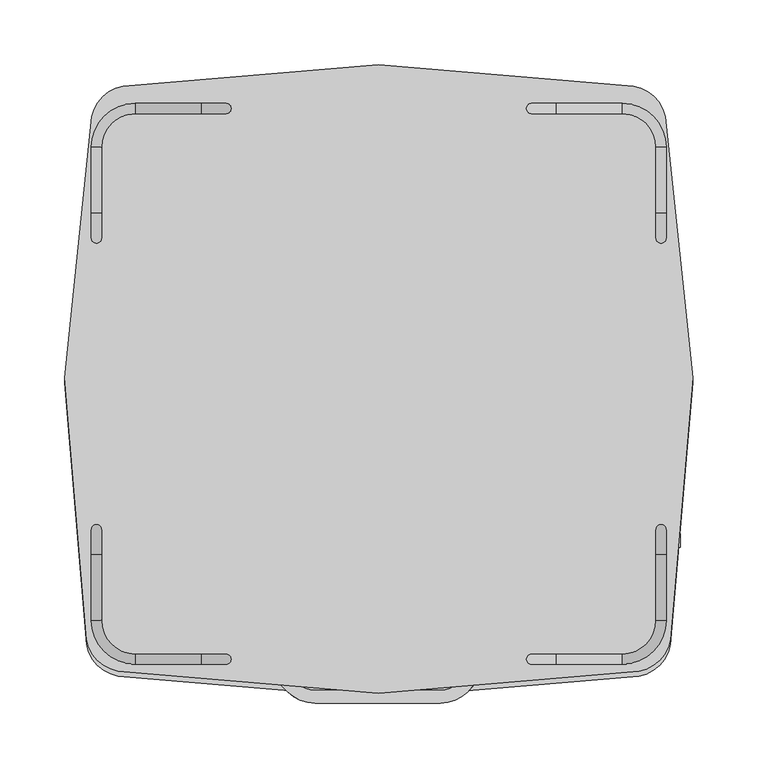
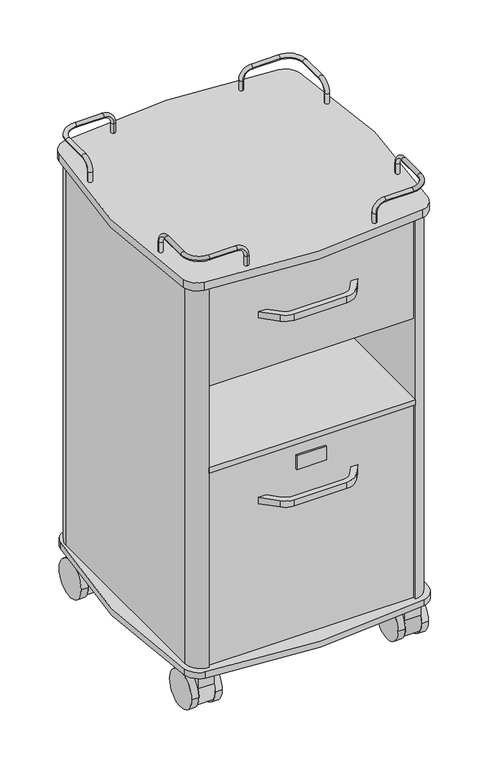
"""IFC4 building model written with IfcOpenShell, lengths in millimetres: proxy geometry, Medical_All_ARJO_Bedside-Cabinet : Medical_All_ARJO_Bedside-Cabinet."""

from ifc_helpers import new_model, si_unit, point, frame, frame_2d, origin, place, context, project, spatial, polyline, circle_curve, ellipse_curve, trimmed, segment, composite_curve, outline, extrude, source, transform, mapped, element, save
from ifc_brep_helpers import plane_surface, cylinder_surface, revolved_surface, advanced_brep


def generic_models_6c1ef8ac(model_context):
    return source(origin(), model_context, "Body", "SolidModel", [
        extrude(outline(polyline([(27.7927633, -215.9008386), (-27.2072367, -215.9008386), (-27.2072367, -212.5), (27.7927633, -212.5), (27.7927633, -215.9008386)])), frame((0.0, 0.0, 418.3032926), z_axis=(0.0, 0.0, 1.0), x_axis=(1.0, 0.0, 0.0)), (0.0, 0.0, 1.0), 27.0),
        advanced_brep(
        [(-214.0838168, 112.5, 847.394198), (-221.9161832, 112.5, 847.394198), (-214.0838168, 112.5, 866.394198), (-221.9161832, 112.5, 866.394198), (-221.9161832, 131.5, 885.394198), (-214.0838168, 131.5, 885.394198), (-214.0838168, 182.5, 885.394198), (-221.9161832, 182.5, 885.394198), (-188.0, 216.4161832, 885.394198), (-188.0, 208.5838168, 885.394198), (-137.0, 208.5838168, 885.394198), (-137.0, 216.4161832, 885.394198), (-118.0, 216.4161832, 866.394198), (-118.0, 208.5838168, 866.394198), (-118.0, 208.5838168, 847.394198), (-118.0, 216.4161832, 847.394198)],
        [
            (0, 1, circle_curve(frame((-218.0, 112.5, 847.394198), z_axis=(0.0, 0.0, -1.0), x_axis=(-1.0, 0.0, 0.0)), 3.9161832)),
            (1, 0, circle_curve(frame((-218.0, 112.5, 847.394198), z_axis=(0.0, 0.0, -1.0), x_axis=(-1.0, 0.0, 0.0)), 3.9161832)),
            (0, 2),
            (2, 3, circle_curve(frame((-218.0, 112.5, 866.394198), z_axis=(0.0, 0.0, -1.0), x_axis=(-1.0, 0.0, 0.0)), 3.9161832)),
            (3, 1),
            (3, 2, circle_curve(frame((-218.0, 112.5, 866.394198), z_axis=(0.0, 0.0, -1.0), x_axis=(-1.0, 0.0, 0.0)), 3.9161832)),
            (4, 3, circle_curve(frame((-221.9161832, 131.5, 866.394198), z_axis=(1.0, 0.0, 0.0), x_axis=(0.0, -1.0, 0.0)), 19.0)),
            (2, 5, circle_curve(frame((-214.0838168, 131.5, 866.394198), z_axis=(-1.0, 0.0, 0.0), x_axis=(0.0, -1.0, 0.0)), 19.0)),
            (5, 4, circle_curve(frame((-218.0, 131.5, 885.394198), z_axis=(0.0, -1.0, 0.0), x_axis=(-1.0, 0.0, 0.0)), 3.9161832)),
            (4, 5, circle_curve(frame((-218.0, 131.5, 885.394198), z_axis=(0.0, -1.0, 0.0), x_axis=(-1.0, 0.0, 0.0)), 3.9161832)),
            (5, 6),
            (6, 7, circle_curve(frame((-218.0, 182.5, 885.394198), z_axis=(0.0, -1.0, 0.0), x_axis=(-1.0, 0.0, 0.0)), 3.9161832)),
            (7, 4),
            (7, 6, circle_curve(frame((-218.0, 182.5, 885.394198), z_axis=(0.0, -1.0, 0.0), x_axis=(-1.0, 0.0, 0.0)), 3.9161832)),
            (8, 7, circle_curve(frame((-188.0, 182.5, 885.394198), z_axis=(0.0, 0.0, 1.0), x_axis=(-1.0, 0.0, 0.0)), 33.9161832)),
            (6, 9, circle_curve(frame((-188.0, 182.5, 885.394198), z_axis=(0.0, 0.0, -1.0), x_axis=(-1.0, 0.0, 0.0)), 26.0838168)),
            (9, 8, circle_curve(frame((-188.0, 212.5, 885.394198), z_axis=(-1.0, 0.0, 0.0), x_axis=(0.0, 1.0, 0.0)), 3.9161832)),
            (8, 9, circle_curve(frame((-188.0, 212.5, 885.394198), z_axis=(-1.0, 0.0, 0.0), x_axis=(0.0, 1.0, 0.0)), 3.9161832)),
            (9, 10),
            (10, 11, circle_curve(frame((-137.0, 212.5, 885.394198), z_axis=(-1.0, 0.0, 0.0), x_axis=(0.0, 1.0, 0.0)), 3.9161832)),
            (11, 8),
            (11, 10, circle_curve(frame((-137.0, 212.5, 885.394198), z_axis=(-1.0, 0.0, 0.0), x_axis=(0.0, 1.0, 0.0)), 3.9161832)),
            (12, 11, circle_curve(frame((-137.0, 216.4161832, 866.394198), z_axis=(0.0, -1.0, 0.0), x_axis=(0.0, 0.0, 1.0)), 19.0)),
            (10, 13, circle_curve(frame((-137.0, 208.5838168, 866.394198), z_axis=(0.0, 1.0, 0.0), x_axis=(0.0, 0.0, 1.0)), 19.0)),
            (13, 12, circle_curve(frame((-118.0, 212.5, 866.394198), z_axis=(0.0, 0.0, 1.0), x_axis=(0.0, 1.0, 0.0)), 3.9161832)),
            (12, 13, circle_curve(frame((-118.0, 212.5, 866.394198), z_axis=(0.0, 0.0, 1.0), x_axis=(0.0, 1.0, 0.0)), 3.9161832)),
            (14, 15, circle_curve(frame((-118.0, 212.5, 847.394198), z_axis=(0.0, 0.0, -1.0), x_axis=(0.0, 1.0, 0.0)), 3.9161832)),
            (15, 14, circle_curve(frame((-118.0, 212.5, 847.394198), z_axis=(0.0, 0.0, -1.0), x_axis=(0.0, 1.0, 0.0)), 3.9161832)),
            (13, 14),
            (15, 12),
        ],
        [
            plane_surface(frame((-218.0, 108.5838168, 847.394198), z_axis=(0.0, 0.0, -1.0), x_axis=(1.0, 0.0, 0.0))),
            cylinder_surface(frame((-218.0, 112.5, 847.394198), z_axis=(0.0, 0.0, -1.0), x_axis=(-1.0, 0.0, 0.0)), 3.9161832),
            revolved_surface(trimmed(ellipse_curve(frame((-218.0, 112.5, 866.394198), z_axis=(0.0, 0.0, -1.0), x_axis=(-1.0, 0.0, 0.0)), 3.9161832, 3.9161832), [point((-214.0838168, 112.5, 866.394198))], [point((-221.9161832, 112.5, 866.394198))], True, "CARTESIAN"), (-218.0, 131.5, 866.394198), (-1.0, 0.0, 0.0)),
            revolved_surface(trimmed(ellipse_curve(frame((-218.0, 112.5, 866.394198), z_axis=(0.0, 0.0, -1.0), x_axis=(-1.0, 0.0, 0.0)), 3.9161832, 3.9161832), [point((-221.9161832, 112.5, 866.394198))], [point((-214.0838168, 112.5, 866.394198))], True, "CARTESIAN"), (-218.0, 131.5, 866.394198), (-1.0, 0.0, 0.0)),
            cylinder_surface(frame((-218.0, 131.5, 885.394198), z_axis=(0.0, -1.0, 0.0), x_axis=(-1.0, 0.0, 0.0)), 3.9161832),
            revolved_surface(trimmed(ellipse_curve(frame((-218.0, 182.5, 885.394198), z_axis=(0.0, -1.0, 0.0), x_axis=(-1.0, 0.0, 0.0)), 3.9161832, 3.9161832), [point((-214.0838168, 182.5, 885.394198))], [point((-221.9161832, 182.5, 885.394198))], True, "CARTESIAN"), (-188.0, 182.5, 885.394198), (0.0, 0.0, -1.0)),
            revolved_surface(trimmed(ellipse_curve(frame((-218.0, 182.5, 885.394198), z_axis=(0.0, -1.0, 0.0), x_axis=(-1.0, 0.0, 0.0)), 3.9161832, 3.9161832), [point((-221.9161832, 182.5, 885.394198))], [point((-214.0838168, 182.5, 885.394198))], True, "CARTESIAN"), (-188.0, 182.5, 885.394198), (0.0, 0.0, -1.0)),
            cylinder_surface(frame((-188.0, 212.5, 885.394198), z_axis=(-1.0, 0.0, 0.0), x_axis=(0.0, 1.0, 0.0)), 3.9161832),
            revolved_surface(trimmed(ellipse_curve(frame((-137.0, 212.5, 885.394198), z_axis=(-1.0, 0.0, 0.0), x_axis=(0.0, 1.0, 0.0)), 3.9161832, 3.9161832), [point((-137.0, 208.5838168, 885.394198))], [point((-137.0, 216.4161832, 885.394198))], True, "CARTESIAN"), (-137.0, 212.5, 866.394198), (0.0, 1.0, 0.0)),
            revolved_surface(trimmed(ellipse_curve(frame((-137.0, 212.5, 885.394198), z_axis=(-1.0, 0.0, 0.0), x_axis=(0.0, 1.0, 0.0)), 3.9161832, 3.9161832), [point((-137.0, 216.4161832, 885.394198))], [point((-137.0, 208.5838168, 885.394198))], True, "CARTESIAN"), (-137.0, 212.5, 866.394198), (0.0, 1.0, 0.0)),
            plane_surface(frame((-118.0, 208.5838168, 847.394198), z_axis=(0.0, 0.0, -1.0), x_axis=(-1.0, 0.0, 0.0))),
            cylinder_surface(frame((-118.0, 212.5, 866.394198), z_axis=(0.0, 0.0, 1.0), x_axis=(0.0, 1.0, 0.0)), 3.9161832),
        ],
        [
            (0, [[1, 2]]),
            (1, [[-1, 3, 4, 5]]),
            (1, [[-2, -5, 6, -3]]),
            (2, [[7, -4, 8, 9]]),
            (3, [[-8, -6, -7, 10]]),
            (4, [[-9, 11, 12, 13]]),
            (4, [[-10, -13, 14, -11]]),
            (5, [[15, -12, 16, 17]]),
            (6, [[-16, -14, -15, 18]]),
            (7, [[-17, 19, 20, 21]]),
            (7, [[-18, -21, 22, -19]]),
            (8, [[23, -20, 24, 25]]),
            (9, [[-24, -22, -23, 26]]),
            (10, [[27, 28]]),
            (11, [[-25, 29, -28, 30]]),
            (11, [[-26, -30, -27, -29]]),
        ],
    ),
        advanced_brep(
        [(214.0838168, 112.5, 847.394198), (221.9161832, 112.5, 847.394198), (221.9161832, 112.5, 866.394198), (214.0838168, 112.5, 866.394198), (214.0838168, 131.5, 885.394198), (221.9161832, 131.5, 885.394198), (221.9161832, 182.5, 885.394198), (214.0838168, 182.5, 885.394198), (188.0, 208.5838168, 885.394198), (188.0, 216.4161832, 885.394198), (137.0, 216.4161832, 885.394198), (137.0, 208.5838168, 885.394198), (118.0, 208.5838168, 866.394198), (118.0, 216.4161832, 866.394198), (118.0, 208.5838168, 847.394198), (118.0, 216.4161832, 847.394198)],
        [
            (0, 1, circle_curve(frame((218.0, 112.5, 847.394198), z_axis=(0.0, 0.0, -1.0), x_axis=(1.0, 0.0, 0.0)), 3.9161832)),
            (1, 0, circle_curve(frame((218.0, 112.5, 847.394198), z_axis=(0.0, 0.0, -1.0), x_axis=(1.0, 0.0, 0.0)), 3.9161832)),
            (1, 2),
            (2, 3, circle_curve(frame((218.0, 112.5, 866.394198), z_axis=(0.0, 0.0, -1.0), x_axis=(1.0, 0.0, 0.0)), 3.9161832)),
            (3, 0),
            (3, 2, circle_curve(frame((218.0, 112.5, 866.394198), z_axis=(0.0, 0.0, -1.0), x_axis=(1.0, 0.0, 0.0)), 3.9161832)),
            (4, 3, circle_curve(frame((214.0838168, 131.5, 866.394198), z_axis=(1.0, 0.0, 0.0), x_axis=(0.0, -1.0, 0.0)), 19.0)),
            (2, 5, circle_curve(frame((221.9161832, 131.5, 866.394198), z_axis=(-1.0, 0.0, 0.0), x_axis=(0.0, -1.0, 0.0)), 19.0)),
            (5, 4, circle_curve(frame((218.0, 131.5, 885.394198), z_axis=(0.0, -1.0, 0.0), x_axis=(1.0, 0.0, 0.0)), 3.9161832)),
            (4, 5, circle_curve(frame((218.0, 131.5, 885.394198), z_axis=(0.0, -1.0, 0.0), x_axis=(1.0, 0.0, 0.0)), 3.9161832)),
            (5, 6),
            (6, 7, circle_curve(frame((218.0, 182.5, 885.394198), z_axis=(0.0, -1.0, 0.0), x_axis=(1.0, 0.0, 0.0)), 3.9161832)),
            (7, 4),
            (7, 6, circle_curve(frame((218.0, 182.5, 885.394198), z_axis=(0.0, -1.0, 0.0), x_axis=(1.0, 0.0, 0.0)), 3.9161832)),
            (8, 7, circle_curve(frame((188.0, 182.5, 885.394198), z_axis=(0.0, 0.0, -1.0), x_axis=(1.0, 0.0, 0.0)), 26.0838168)),
            (6, 9, circle_curve(frame((188.0, 182.5, 885.394198), z_axis=(0.0, 0.0, 1.0), x_axis=(1.0, 0.0, 0.0)), 33.9161832)),
            (9, 8, circle_curve(frame((188.0, 212.5, 885.394198), z_axis=(1.0, 0.0, 0.0), x_axis=(0.0, 1.0, 0.0)), 3.9161832)),
            (8, 9, circle_curve(frame((188.0, 212.5, 885.394198), z_axis=(1.0, 0.0, 0.0), x_axis=(0.0, 1.0, 0.0)), 3.9161832)),
            (9, 10),
            (10, 11, circle_curve(frame((137.0, 212.5, 885.394198), z_axis=(1.0, 0.0, 0.0), x_axis=(0.0, 1.0, 0.0)), 3.9161832)),
            (11, 8),
            (11, 10, circle_curve(frame((137.0, 212.5, 885.394198), z_axis=(1.0, 0.0, 0.0), x_axis=(0.0, 1.0, 0.0)), 3.9161832)),
            (12, 11, circle_curve(frame((137.0, 208.5838168, 866.394198), z_axis=(0.0, 1.0, 0.0), x_axis=(0.0, 0.0, 1.0)), 19.0)),
            (10, 13, circle_curve(frame((137.0, 216.4161832, 866.394198), z_axis=(0.0, -1.0, 0.0), x_axis=(0.0, 0.0, 1.0)), 19.0)),
            (13, 12, circle_curve(frame((118.0, 212.5, 866.394198), z_axis=(0.0, 0.0, 1.0), x_axis=(0.0, 1.0, 0.0)), 3.9161832)),
            (12, 13, circle_curve(frame((118.0, 212.5, 866.394198), z_axis=(0.0, 0.0, 1.0), x_axis=(0.0, 1.0, 0.0)), 3.9161832)),
            (14, 15, circle_curve(frame((118.0, 212.5, 847.394198), z_axis=(0.0, 0.0, -1.0), x_axis=(0.0, 1.0, 0.0)), 3.9161832)),
            (15, 14, circle_curve(frame((118.0, 212.5, 847.394198), z_axis=(0.0, 0.0, -1.0), x_axis=(0.0, 1.0, 0.0)), 3.9161832)),
            (13, 15),
            (14, 12),
        ],
        [
            plane_surface(frame((218.0, 108.5838168, 847.394198), z_axis=(0.0, 0.0, -1.0), x_axis=(1.0, 0.0, 0.0))),
            cylinder_surface(frame((218.0, 112.5, 847.394198), z_axis=(0.0, 0.0, -1.0), x_axis=(1.0, 0.0, 0.0)), 3.9161832),
            revolved_surface(trimmed(ellipse_curve(frame((218.0, 112.5, 866.394198), z_axis=(0.0, 0.0, -1.0), x_axis=(1.0, 0.0, 0.0)), 3.9161832, 3.9161832), [point((221.9161832, 112.5, 866.394198))], [point((214.0838168, 112.5, 866.394198))], True, "CARTESIAN"), (218.0, 131.5, 866.394198), (-1.0, 0.0, 0.0)),
            revolved_surface(trimmed(ellipse_curve(frame((218.0, 112.5, 866.394198), z_axis=(0.0, 0.0, -1.0), x_axis=(1.0, 0.0, 0.0)), 3.9161832, 3.9161832), [point((214.0838168, 112.5, 866.394198))], [point((221.9161832, 112.5, 866.394198))], True, "CARTESIAN"), (218.0, 131.5, 866.394198), (-1.0, 0.0, 0.0)),
            cylinder_surface(frame((218.0, 131.5, 885.394198), z_axis=(0.0, -1.0, 0.0), x_axis=(1.0, 0.0, 0.0)), 3.9161832),
            revolved_surface(trimmed(ellipse_curve(frame((218.0, 182.5, 885.394198), z_axis=(0.0, -1.0, 0.0), x_axis=(1.0, 0.0, 0.0)), 3.9161832, 3.9161832), [point((221.9161832, 182.5, 885.394198))], [point((214.0838168, 182.5, 885.394198))], True, "CARTESIAN"), (188.0, 182.5, 885.394198), (0.0, 0.0, 1.0)),
            revolved_surface(trimmed(ellipse_curve(frame((218.0, 182.5, 885.394198), z_axis=(0.0, -1.0, 0.0), x_axis=(1.0, 0.0, 0.0)), 3.9161832, 3.9161832), [point((214.0838168, 182.5, 885.394198))], [point((221.9161832, 182.5, 885.394198))], True, "CARTESIAN"), (188.0, 182.5, 885.394198), (0.0, 0.0, 1.0)),
            cylinder_surface(frame((188.0, 212.5, 885.394198), z_axis=(1.0, 0.0, 0.0), x_axis=(0.0, 1.0, 0.0)), 3.9161832),
            revolved_surface(trimmed(ellipse_curve(frame((137.0, 212.5, 885.394198), z_axis=(1.0, 0.0, 0.0), x_axis=(0.0, 1.0, 0.0)), 3.9161832, 3.9161832), [point((137.0, 216.4161832, 885.394198))], [point((137.0, 208.5838168, 885.394198))], True, "CARTESIAN"), (137.0, 212.5, 866.394198), (0.0, -1.0, 0.0)),
            revolved_surface(trimmed(ellipse_curve(frame((137.0, 212.5, 885.394198), z_axis=(1.0, 0.0, 0.0), x_axis=(0.0, 1.0, 0.0)), 3.9161832, 3.9161832), [point((137.0, 208.5838168, 885.394198))], [point((137.0, 216.4161832, 885.394198))], True, "CARTESIAN"), (137.0, 212.5, 866.394198), (0.0, -1.0, 0.0)),
            plane_surface(frame((118.0, 208.5838168, 847.394198), z_axis=(0.0, 0.0, -1.0), x_axis=(-1.0, 0.0, 0.0))),
            cylinder_surface(frame((118.0, 212.5, 866.394198), z_axis=(0.0, 0.0, 1.0), x_axis=(0.0, 1.0, 0.0)), 3.9161832),
        ],
        [
            (0, [[1, 2]]),
            (1, [[-2, 3, 4, 5]]),
            (1, [[-1, -5, 6, -3]]),
            (2, [[7, -4, 8, 9]]),
            (3, [[-8, -6, -7, 10]]),
            (4, [[-9, 11, 12, 13]]),
            (4, [[-10, -13, 14, -11]]),
            (5, [[15, -12, 16, 17]]),
            (6, [[-16, -14, -15, 18]]),
            (7, [[-17, 19, 20, 21]]),
            (7, [[-18, -21, 22, -19]]),
            (8, [[23, -20, 24, 25]]),
            (9, [[-24, -22, -23, 26]]),
            (10, [[27, 28]]),
            (11, [[-25, 29, -27, 30]]),
            (11, [[-26, -30, -28, -29]]),
        ],
    ),
        advanced_brep(
        [(-214.0838168, -112.5, 847.394198), (-221.9161832, -112.5, 847.394198), (-221.9161832, -112.5, 866.394198), (-214.0838168, -112.5, 866.394198), (-214.0838168, -131.5, 885.394198), (-221.9161832, -131.5, 885.394198), (-221.9161832, -182.5, 885.394198), (-214.0838168, -182.5, 885.394198), (-188.0, -208.5838168, 885.394198), (-188.0, -216.4161832, 885.394198), (-137.0, -216.4161832, 885.394198), (-137.0, -208.5838168, 885.394198), (-118.0, -208.5838168, 866.394198), (-118.0, -216.4161832, 866.394198), (-118.0, -208.5838168, 847.394198), (-118.0, -216.4161832, 847.394198)],
        [
            (0, 1, circle_curve(frame((-218.0, -112.5, 847.394198), z_axis=(0.0, 0.0, -1.0), x_axis=(-1.0, 0.0, 0.0)), 3.9161832)),
            (1, 0, circle_curve(frame((-218.0, -112.5, 847.394198), z_axis=(0.0, 0.0, -1.0), x_axis=(-1.0, 0.0, 0.0)), 3.9161832)),
            (1, 2),
            (2, 3, circle_curve(frame((-218.0, -112.5, 866.394198), z_axis=(0.0, 0.0, -1.0), x_axis=(-1.0, 0.0, 0.0)), 3.9161832)),
            (3, 0),
            (3, 2, circle_curve(frame((-218.0, -112.5, 866.394198), z_axis=(0.0, 0.0, -1.0), x_axis=(-1.0, 0.0, 0.0)), 3.9161832)),
            (4, 3, circle_curve(frame((-214.0838168, -131.5, 866.394198), z_axis=(-1.0, 0.0, 0.0), x_axis=(0.0, 1.0, 0.0)), 19.0)),
            (2, 5, circle_curve(frame((-221.9161832, -131.5, 866.394198), z_axis=(1.0, 0.0, 0.0), x_axis=(0.0, 1.0, 0.0)), 19.0)),
            (5, 4, circle_curve(frame((-218.0, -131.5, 885.394198), z_axis=(0.0, 1.0, 0.0), x_axis=(-1.0, 0.0, 0.0)), 3.9161832)),
            (4, 5, circle_curve(frame((-218.0, -131.5, 885.394198), z_axis=(0.0, 1.0, 0.0), x_axis=(-1.0, 0.0, 0.0)), 3.9161832)),
            (5, 6),
            (6, 7, circle_curve(frame((-218.0, -182.5, 885.394198), z_axis=(0.0, 1.0, 0.0), x_axis=(-1.0, 0.0, 0.0)), 3.9161832)),
            (7, 4),
            (7, 6, circle_curve(frame((-218.0, -182.5, 885.394198), z_axis=(0.0, 1.0, 0.0), x_axis=(-1.0, 0.0, 0.0)), 3.9161832)),
            (8, 7, circle_curve(frame((-188.0, -182.5, 885.394198), z_axis=(0.0, 0.0, -1.0), x_axis=(-1.0, 0.0, 0.0)), 26.0838168)),
            (6, 9, circle_curve(frame((-188.0, -182.5, 885.394198), z_axis=(0.0, 0.0, 1.0), x_axis=(-1.0, 0.0, 0.0)), 33.9161832)),
            (9, 8, circle_curve(frame((-188.0, -212.5, 885.394198), z_axis=(-1.0, 0.0, 0.0), x_axis=(0.0, -1.0, 0.0)), 3.9161832)),
            (8, 9, circle_curve(frame((-188.0, -212.5, 885.394198), z_axis=(-1.0, 0.0, 0.0), x_axis=(0.0, -1.0, 0.0)), 3.9161832)),
            (9, 10),
            (10, 11, circle_curve(frame((-137.0, -212.5, 885.394198), z_axis=(-1.0, 0.0, 0.0), x_axis=(0.0, -1.0, 0.0)), 3.9161832)),
            (11, 8),
            (11, 10, circle_curve(frame((-137.0, -212.5, 885.394198), z_axis=(-1.0, 0.0, 0.0), x_axis=(0.0, -1.0, 0.0)), 3.9161832)),
            (12, 11, circle_curve(frame((-137.0, -208.5838168, 866.394198), z_axis=(0.0, -1.0, 0.0), x_axis=(0.0, 0.0, 1.0)), 19.0)),
            (10, 13, circle_curve(frame((-137.0, -216.4161832, 866.394198), z_axis=(0.0, 1.0, 0.0), x_axis=(0.0, 0.0, 1.0)), 19.0)),
            (13, 12, circle_curve(frame((-118.0, -212.5, 866.394198), z_axis=(0.0, 0.0, 1.0), x_axis=(0.0, -1.0, 0.0)), 3.9161832)),
            (12, 13, circle_curve(frame((-118.0, -212.5, 866.394198), z_axis=(0.0, 0.0, 1.0), x_axis=(0.0, -1.0, 0.0)), 3.9161832)),
            (14, 15, circle_curve(frame((-118.0, -212.5, 847.394198), z_axis=(0.0, 0.0, -1.0), x_axis=(0.0, -1.0, 0.0)), 3.9161832)),
            (15, 14, circle_curve(frame((-118.0, -212.5, 847.394198), z_axis=(0.0, 0.0, -1.0), x_axis=(0.0, -1.0, 0.0)), 3.9161832)),
            (13, 15),
            (14, 12),
        ],
        [
            plane_surface(frame((-218.0, -116.4161832, 847.394198), z_axis=(0.0, 0.0, -1.0), x_axis=(1.0, 0.0, 0.0))),
            cylinder_surface(frame((-218.0, -112.5, 847.394198), z_axis=(0.0, 0.0, -1.0), x_axis=(-1.0, 0.0, 0.0)), 3.9161832),
            revolved_surface(trimmed(ellipse_curve(frame((-218.0, -112.5, 866.394198), z_axis=(0.0, 0.0, -1.0), x_axis=(-1.0, 0.0, 0.0)), 3.9161832, 3.9161832), [point((-221.9161832, -112.5, 866.394198))], [point((-214.0838168, -112.5, 866.394198))], True, "CARTESIAN"), (-218.0, -131.5, 866.394198), (1.0, 0.0, 0.0)),
            revolved_surface(trimmed(ellipse_curve(frame((-218.0, -112.5, 866.394198), z_axis=(0.0, 0.0, -1.0), x_axis=(-1.0, 0.0, 0.0)), 3.9161832, 3.9161832), [point((-214.0838168, -112.5, 866.394198))], [point((-221.9161832, -112.5, 866.394198))], True, "CARTESIAN"), (-218.0, -131.5, 866.394198), (1.0, 0.0, 0.0)),
            cylinder_surface(frame((-218.0, -131.5, 885.394198), z_axis=(0.0, 1.0, 0.0), x_axis=(-1.0, 0.0, 0.0)), 3.9161832),
            revolved_surface(trimmed(ellipse_curve(frame((-218.0, -182.5, 885.394198), z_axis=(0.0, 1.0, 0.0), x_axis=(-1.0, 0.0, 0.0)), 3.9161832, 3.9161832), [point((-221.9161832, -182.5, 885.394198))], [point((-214.0838168, -182.5, 885.394198))], True, "CARTESIAN"), (-188.0, -182.5, 885.394198), (0.0, 0.0, 1.0)),
            revolved_surface(trimmed(ellipse_curve(frame((-218.0, -182.5, 885.394198), z_axis=(0.0, 1.0, 0.0), x_axis=(-1.0, 0.0, 0.0)), 3.9161832, 3.9161832), [point((-214.0838168, -182.5, 885.394198))], [point((-221.9161832, -182.5, 885.394198))], True, "CARTESIAN"), (-188.0, -182.5, 885.394198), (0.0, 0.0, 1.0)),
            cylinder_surface(frame((-188.0, -212.5, 885.394198), z_axis=(-1.0, 0.0, 0.0), x_axis=(0.0, -1.0, 0.0)), 3.9161832),
            revolved_surface(trimmed(ellipse_curve(frame((-137.0, -212.5, 885.394198), z_axis=(-1.0, 0.0, 0.0), x_axis=(0.0, -1.0, 0.0)), 3.9161832, 3.9161832), [point((-137.0, -216.4161832, 885.394198))], [point((-137.0, -208.5838168, 885.394198))], True, "CARTESIAN"), (-137.0, -212.5, 866.394198), (0.0, 1.0, 0.0)),
            revolved_surface(trimmed(ellipse_curve(frame((-137.0, -212.5, 885.394198), z_axis=(-1.0, 0.0, 0.0), x_axis=(0.0, -1.0, 0.0)), 3.9161832, 3.9161832), [point((-137.0, -208.5838168, 885.394198))], [point((-137.0, -216.4161832, 885.394198))], True, "CARTESIAN"), (-137.0, -212.5, 866.394198), (0.0, 1.0, 0.0)),
            plane_surface(frame((-118.0, -216.4161832, 847.394198), z_axis=(0.0, 0.0, -1.0), x_axis=(-1.0, 0.0, 0.0))),
            cylinder_surface(frame((-118.0, -212.5, 866.394198), z_axis=(0.0, 0.0, 1.0), x_axis=(0.0, -1.0, 0.0)), 3.9161832),
        ],
        [
            (0, [[1, 2]]),
            (1, [[-2, 3, 4, 5]]),
            (1, [[-1, -5, 6, -3]]),
            (2, [[7, -4, 8, 9]]),
            (3, [[-8, -6, -7, 10]]),
            (4, [[-9, 11, 12, 13]]),
            (4, [[-10, -13, 14, -11]]),
            (5, [[15, -12, 16, 17]]),
            (6, [[-16, -14, -15, 18]]),
            (7, [[-17, 19, 20, 21]]),
            (7, [[-18, -21, 22, -19]]),
            (8, [[23, -20, 24, 25]]),
            (9, [[-24, -22, -23, 26]]),
            (10, [[27, 28]]),
            (11, [[-25, 29, -27, 30]]),
            (11, [[-26, -30, -28, -29]]),
        ],
    ),
        advanced_brep(
        [(214.0838168, -112.5, 847.394198), (221.9161832, -112.5, 847.394198), (214.0838168, -112.5, 866.394198), (221.9161832, -112.5, 866.394198), (221.9161832, -131.5, 885.394198), (214.0838168, -131.5, 885.394198), (214.0838168, -182.5, 885.394198), (221.9161832, -182.5, 885.394198), (188.0, -216.4161832, 885.394198), (188.0, -208.5838168, 885.394198), (137.0, -208.5838168, 885.394198), (137.0, -216.4161832, 885.394198), (118.0, -216.4161832, 866.394198), (118.0, -208.5838168, 866.394198), (118.0, -208.5838168, 847.394198), (118.0, -216.4161832, 847.394198)],
        [
            (0, 1, circle_curve(frame((218.0, -112.5, 847.394198), z_axis=(0.0, 0.0, -1.0), x_axis=(1.0, 0.0, 0.0)), 3.9161832)),
            (1, 0, circle_curve(frame((218.0, -112.5, 847.394198), z_axis=(0.0, 0.0, -1.0), x_axis=(1.0, 0.0, 0.0)), 3.9161832)),
            (0, 2),
            (2, 3, circle_curve(frame((218.0, -112.5, 866.394198), z_axis=(0.0, 0.0, -1.0), x_axis=(1.0, 0.0, 0.0)), 3.9161832)),
            (3, 1),
            (3, 2, circle_curve(frame((218.0, -112.5, 866.394198), z_axis=(0.0, 0.0, -1.0), x_axis=(1.0, 0.0, 0.0)), 3.9161832)),
            (4, 3, circle_curve(frame((221.9161832, -131.5, 866.394198), z_axis=(-1.0, 0.0, 0.0), x_axis=(0.0, 1.0, 0.0)), 19.0)),
            (2, 5, circle_curve(frame((214.0838168, -131.5, 866.394198), z_axis=(1.0, 0.0, 0.0), x_axis=(0.0, 1.0, 0.0)), 19.0)),
            (5, 4, circle_curve(frame((218.0, -131.5, 885.394198), z_axis=(0.0, 1.0, 0.0), x_axis=(1.0, 0.0, 0.0)), 3.9161832)),
            (4, 5, circle_curve(frame((218.0, -131.5, 885.394198), z_axis=(0.0, 1.0, 0.0), x_axis=(1.0, 0.0, 0.0)), 3.9161832)),
            (5, 6),
            (6, 7, circle_curve(frame((218.0, -182.5, 885.394198), z_axis=(0.0, 1.0, 0.0), x_axis=(1.0, 0.0, 0.0)), 3.9161832)),
            (7, 4),
            (7, 6, circle_curve(frame((218.0, -182.5, 885.394198), z_axis=(0.0, 1.0, 0.0), x_axis=(1.0, 0.0, 0.0)), 3.9161832)),
            (8, 7, circle_curve(frame((188.0, -182.5, 885.394198), z_axis=(0.0, 0.0, 1.0), x_axis=(1.0, 0.0, 0.0)), 33.9161832)),
            (6, 9, circle_curve(frame((188.0, -182.5, 885.394198), z_axis=(0.0, 0.0, -1.0), x_axis=(1.0, 0.0, 0.0)), 26.0838168)),
            (9, 8, circle_curve(frame((188.0, -212.5, 885.394198), z_axis=(1.0, 0.0, 0.0), x_axis=(0.0, -1.0, 0.0)), 3.9161832)),
            (8, 9, circle_curve(frame((188.0, -212.5, 885.394198), z_axis=(1.0, 0.0, 0.0), x_axis=(0.0, -1.0, 0.0)), 3.9161832)),
            (9, 10),
            (10, 11, circle_curve(frame((137.0, -212.5, 885.394198), z_axis=(1.0, 0.0, 0.0), x_axis=(0.0, -1.0, 0.0)), 3.9161832)),
            (11, 8),
            (11, 10, circle_curve(frame((137.0, -212.5, 885.394198), z_axis=(1.0, 0.0, 0.0), x_axis=(0.0, -1.0, 0.0)), 3.9161832)),
            (12, 11, circle_curve(frame((137.0, -216.4161832, 866.394198), z_axis=(0.0, 1.0, 0.0), x_axis=(0.0, 0.0, 1.0)), 19.0)),
            (10, 13, circle_curve(frame((137.0, -208.5838168, 866.394198), z_axis=(0.0, -1.0, 0.0), x_axis=(0.0, 0.0, 1.0)), 19.0)),
            (13, 12, circle_curve(frame((118.0, -212.5, 866.394198), z_axis=(0.0, 0.0, 1.0), x_axis=(0.0, -1.0, 0.0)), 3.9161832)),
            (12, 13, circle_curve(frame((118.0, -212.5, 866.394198), z_axis=(0.0, 0.0, 1.0), x_axis=(0.0, -1.0, 0.0)), 3.9161832)),
            (14, 15, circle_curve(frame((118.0, -212.5, 847.394198), z_axis=(0.0, 0.0, -1.0), x_axis=(0.0, -1.0, 0.0)), 3.9161832)),
            (15, 14, circle_curve(frame((118.0, -212.5, 847.394198), z_axis=(0.0, 0.0, -1.0), x_axis=(0.0, -1.0, 0.0)), 3.9161832)),
            (13, 14),
            (15, 12),
        ],
        [
            plane_surface(frame((218.0, -116.4161832, 847.394198), z_axis=(0.0, 0.0, -1.0), x_axis=(1.0, 0.0, 0.0))),
            cylinder_surface(frame((218.0, -112.5, 847.394198), z_axis=(0.0, 0.0, -1.0), x_axis=(1.0, 0.0, 0.0)), 3.9161832),
            revolved_surface(trimmed(ellipse_curve(frame((218.0, -112.5, 866.394198), z_axis=(0.0, 0.0, -1.0), x_axis=(1.0, 0.0, 0.0)), 3.9161832, 3.9161832), [point((214.0838168, -112.5, 866.394198))], [point((221.9161832, -112.5, 866.394198))], True, "CARTESIAN"), (218.0, -131.5, 866.394198), (1.0, 0.0, 0.0)),
            revolved_surface(trimmed(ellipse_curve(frame((218.0, -112.5, 866.394198), z_axis=(0.0, 0.0, -1.0), x_axis=(1.0, 0.0, 0.0)), 3.9161832, 3.9161832), [point((221.9161832, -112.5, 866.394198))], [point((214.0838168, -112.5, 866.394198))], True, "CARTESIAN"), (218.0, -131.5, 866.394198), (1.0, 0.0, 0.0)),
            cylinder_surface(frame((218.0, -131.5, 885.394198), z_axis=(0.0, 1.0, 0.0), x_axis=(1.0, 0.0, 0.0)), 3.9161832),
            revolved_surface(trimmed(ellipse_curve(frame((218.0, -182.5, 885.394198), z_axis=(0.0, 1.0, 0.0), x_axis=(1.0, 0.0, 0.0)), 3.9161832, 3.9161832), [point((214.0838168, -182.5, 885.394198))], [point((221.9161832, -182.5, 885.394198))], True, "CARTESIAN"), (188.0, -182.5, 885.394198), (0.0, 0.0, -1.0)),
            revolved_surface(trimmed(ellipse_curve(frame((218.0, -182.5, 885.394198), z_axis=(0.0, 1.0, 0.0), x_axis=(1.0, 0.0, 0.0)), 3.9161832, 3.9161832), [point((221.9161832, -182.5, 885.394198))], [point((214.0838168, -182.5, 885.394198))], True, "CARTESIAN"), (188.0, -182.5, 885.394198), (0.0, 0.0, -1.0)),
            cylinder_surface(frame((188.0, -212.5, 885.394198), z_axis=(1.0, 0.0, 0.0), x_axis=(0.0, -1.0, 0.0)), 3.9161832),
            revolved_surface(trimmed(ellipse_curve(frame((137.0, -212.5, 885.394198), z_axis=(1.0, 0.0, 0.0), x_axis=(0.0, -1.0, 0.0)), 3.9161832, 3.9161832), [point((137.0, -208.5838168, 885.394198))], [point((137.0, -216.4161832, 885.394198))], True, "CARTESIAN"), (137.0, -212.5, 866.394198), (0.0, -1.0, 0.0)),
            revolved_surface(trimmed(ellipse_curve(frame((137.0, -212.5, 885.394198), z_axis=(1.0, 0.0, 0.0), x_axis=(0.0, -1.0, 0.0)), 3.9161832, 3.9161832), [point((137.0, -216.4161832, 885.394198))], [point((137.0, -208.5838168, 885.394198))], True, "CARTESIAN"), (137.0, -212.5, 866.394198), (0.0, -1.0, 0.0)),
            plane_surface(frame((118.0, -216.4161832, 847.394198), z_axis=(0.0, 0.0, -1.0), x_axis=(-1.0, 0.0, 0.0))),
            cylinder_surface(frame((118.0, -212.5, 866.394198), z_axis=(0.0, 0.0, 1.0), x_axis=(0.0, -1.0, 0.0)), 3.9161832),
        ],
        [
            (0, [[1, 2]]),
            (1, [[-1, 3, 4, 5]]),
            (1, [[-2, -5, 6, -3]]),
            (2, [[7, -4, 8, 9]]),
            (3, [[-8, -6, -7, 10]]),
            (4, [[-9, 11, 12, 13]]),
            (4, [[-10, -13, 14, -11]]),
            (5, [[15, -12, 16, 17]]),
            (6, [[-16, -14, -15, 18]]),
            (7, [[-17, 19, 20, 21]]),
            (7, [[-18, -21, 22, -19]]),
            (8, [[23, -20, 24, 25]]),
            (9, [[-24, -22, -23, 26]]),
            (10, [[27, 28]]),
            (11, [[-25, 29, -28, 30]]),
            (11, [[-26, -30, -27, -29]]),
        ],
    ),
        extrude(outline(composite_curve([segment(polyline([(-70.5025253, -237.5098507), (-95.512376, -212.5), (-81.3702404, -212.5), (-63.4314575, -230.4387829)]), True, "CONTINUOUS"), segment(trimmed(circle_curve(frame_2d((-49.2893219, -216.2966472)), 20.0), [point((-63.4314575, -230.4387829))], [point((-49.2893219, -236.2966472))], True, "CARTESIAN"), True, "CONTINUOUS"), segment(polyline([(-49.2893219, -236.2966472), (47.6672597, -236.2966472)]), True, "CONTINUOUS"), segment(trimmed(circle_curve(frame_2d((47.6672597, -216.2966472)), 20.0), [point((47.6672597, -236.2966472))], [point((64.0503006, -227.768176))], True, "CARTESIAN"), True, "CONTINUOUS"), segment(polyline([(64.0503006, -227.768176), (74.7411925, -212.5), (86.9489384, -212.5), (72.2418211, -233.5039403)]), True, "CONTINUOUS"), segment(trimmed(circle_curve(frame_2d((47.6672597, -216.2966472)), 30.0), [point((72.2418211, -233.5039403))], [point((47.6672597, -246.2966472))], False, "CARTESIAN"), True, "CONTINUOUS"), segment(polyline([(47.6672597, -246.2966472), (-49.2893219, -246.2966472)]), True, "CONTINUOUS"), segment(trimmed(circle_curve(frame_2d((-49.2893219, -216.2966472)), 30.0), [point((-49.2893219, -246.2966472))], [point((-70.5025253, -237.5098507))], False, "CARTESIAN"), True, "CONTINUOUS")], self_intersect=False)), frame((0.0, 0.0, 374.5683981), z_axis=(0.0, 0.0, 1.0), x_axis=(1.0, 0.0, 0.0)), (0.0, 0.0, 1.0), 12.0),
        extrude(outline(composite_curve([segment(polyline([(-70.5025253, -237.5098507), (-95.512376, -212.5), (-81.3702404, -212.5), (-63.4314575, -230.4387829)]), True, "CONTINUOUS"), segment(trimmed(circle_curve(frame_2d((-49.2893219, -216.2966472)), 20.0), [point((-63.4314575, -230.4387829))], [point((-49.2893219, -236.2966472))], True, "CARTESIAN"), True, "CONTINUOUS"), segment(polyline([(-49.2893219, -236.2966472), (47.6672597, -236.2966472)]), True, "CONTINUOUS"), segment(trimmed(circle_curve(frame_2d((47.6672597, -216.2966472)), 20.0), [point((47.6672597, -236.2966472))], [point((64.0503006, -227.768176))], True, "CARTESIAN"), True, "CONTINUOUS"), segment(polyline([(64.0503006, -227.768176), (74.7411925, -212.5), (86.9489384, -212.5), (72.2418211, -233.5039403)]), True, "CONTINUOUS"), segment(trimmed(circle_curve(frame_2d((47.6672597, -216.2966472)), 30.0), [point((72.2418211, -233.5039403))], [point((47.6672597, -246.2966472))], False, "CARTESIAN"), True, "CONTINUOUS"), segment(polyline([(47.6672597, -246.2966472), (-49.2893219, -246.2966472)]), True, "CONTINUOUS"), segment(trimmed(circle_curve(frame_2d((-49.2893219, -216.2966472)), 30.0), [point((-49.2893219, -246.2966472))], [point((-70.5025253, -237.5098507))], False, "CARTESIAN"), True, "CONTINUOUS")], self_intersect=False)), frame((0.0, 0.0, 735.7739776), z_axis=(0.0, 0.0, 1.0), x_axis=(1.0, 0.0, 0.0)), (0.0, 0.0, 1.0), 12.0),
        extrude(outline(polyline([(-190.0, 185.0), (190.0, 185.0), (190.0, -218.012376), (-190.0, -218.012376), (-190.0, 185.0)])), frame((0.0, 0.0, 470.3095887), z_axis=(0.0, 0.0, 1.0), x_axis=(1.0, 0.0, 0.0)), (0.0, 0.0, 1.0), 10.0),
        extrude(outline(composite_curve([segment(trimmed(circle_curve(frame_2d((191.7493336, 200.2338668)), 30.0), [point((196.7142532, 229.820174))], [point((221.1390101, 206.2544078))], False, "CARTESIAN"), True, "CONTINUOUS"), segment(trimmed(circle_curve(frame_2d((-816.2738976, -6.2619456)), 1058.9564399), [point((221.1390101, 206.2544078))], [point((225.2620123, -197.5514903))], False, "CARTESIAN"), True, "CONTINUOUS"), segment(trimmed(circle_curve(frame_2d((195.755532, -192.1323001)), 30.0), [point((225.2620123, -197.5514903))], [point((200.8241832, -221.7010129))], False, "CARTESIAN"), True, "CONTINUOUS"), segment(trimmed(circle_curve(frame_2d((0.0, 949.8360279)), 1188.625), [point((200.8241832, -221.7010129))], [point((-201.2465994, -221.6285242))], False, "CARTESIAN"), True, "CONTINUOUS"), segment(trimmed(circle_curve(frame_2d((-196.1672867, -192.061641)), 30.0), [point((-201.2465994, -221.6285242))], [point((-225.7043182, -197.311762))], False, "CARTESIAN"), True, "CONTINUOUS"), segment(trimmed(circle_curve(frame_2d((848.7903821, -6.3234687)), 1091.3365151), [point((-225.7043182, -197.311762))], [point((-221.6961976, 205.9826117))], False, "CARTESIAN"), True, "CONTINUOUS"), segment(trimmed(circle_curve(frame_2d((-192.2693463, 200.1464811)), 30.0), [point((-221.6961976, 205.9826117))], [point((-197.2477305, 229.7305256))], False, "CARTESIAN"), True, "CONTINUOUS"), segment(trimmed(circle_curve(frame_2d((0.0, -942.4139721)), 1188.625), [point((-197.2477305, 229.7305256))], [point((196.7142532, 229.820174))], False, "CARTESIAN"), True, "CONTINUOUS")], self_intersect=False)), frame((0.0, 0.0, 832.0), z_axis=(0.0, 0.0, 1.0), x_axis=(1.0, 0.0, 0.0)), (0.0, 0.0, 1.0), 15.394198),
        extrude(outline(composite_curve([segment(trimmed(circle_curve(frame_2d((191.7493336, 196.5228389)), 30.0), [point((196.7142532, 226.1091461))], [point((221.1390101, 202.5433798))], False, "CARTESIAN"), True, "CONTINUOUS"), segment(trimmed(circle_curve(frame_2d((-816.2738976, -9.9729735)), 1058.9564399), [point((221.1390101, 202.5433798))], [point((225.2620123, -201.2625182))], False, "CARTESIAN"), True, "CONTINUOUS"), segment(trimmed(circle_curve(frame_2d((195.755532, -195.8433281)), 30.0), [point((225.2620123, -201.2625182))], [point((200.8241832, -225.4120408))], False, "CARTESIAN"), True, "CONTINUOUS"), segment(trimmed(circle_curve(frame_2d((0.0, 946.125)), 1188.625), [point((200.8241832, -225.4120408))], [point((-201.2465994, -225.3395521))], False, "CARTESIAN"), True, "CONTINUOUS"), segment(trimmed(circle_curve(frame_2d((-196.1672867, -195.7726689)), 30.0), [point((-201.2465994, -225.3395521))], [point((-225.7043182, -201.0227899))], False, "CARTESIAN"), True, "CONTINUOUS"), segment(trimmed(circle_curve(frame_2d((848.7903821, -10.0344967)), 1091.3365151), [point((-225.7043182, -201.0227899))], [point((-221.6961976, 202.2715837))], False, "CARTESIAN"), True, "CONTINUOUS"), segment(trimmed(circle_curve(frame_2d((-192.2693463, 196.4354531)), 30.0), [point((-221.6961976, 202.2715837))], [point((-197.2477305, 226.0194977))], False, "CARTESIAN"), True, "CONTINUOUS"), segment(trimmed(circle_curve(frame_2d((0.0, -946.125)), 1188.625), [point((-197.2477305, 226.0194977))], [point((196.7142532, 226.1091461))], False, "CARTESIAN"), True, "CONTINUOUS")], self_intersect=False)), frame((0.0, 0.0, 80.0), z_axis=(0.0, 0.0, 1.0), x_axis=(1.0, 0.0, 0.0)), (0.0, 0.0, 1.0), 12.0),
        advanced_brep(
        [(-218.0, 190.0, 832.0), (-218.0, -188.0791169, 832.0), (-190.0, -218.012376, 832.0), (-190.0, -212.5, 832.0), (190.0, -212.5, 832.0), (190.0, -218.012376, 832.0), (218.0, -188.0791169, 832.0), (218.0, 190.0, 832.0), (190.0, 219.9332591, 832.0), (190.0, 212.5, 832.0), (-190.0, 212.5, 832.0), (-190.0, 219.9332591, 832.0), (218.0, 190.0, 92.0), (218.0, -188.0791169, 92.0), (190.0, -218.012376, 92.0), (190.0, -212.5, 92.0), (-190.0, -212.5, 92.0), (-190.0, -218.012376, 92.0), (-218.0, -188.0791169, 92.0), (-218.0, 190.0, 92.0), (-190.0, 219.9332591, 92.0), (-190.0, 212.5, 92.0), (190.0, 212.5, 92.0), (190.0, 219.9332591, 92.0), (218.0, -115.7345635, 762.7739776), (218.0, -115.7345635, 737.3646228), (218.0, -126.1888736, 737.3646228), (218.0, -126.1888736, 762.7739776), (190.0, 185.0, 470.3095887), (190.0, 185.0, 635.3095887), (-190.0, 185.0, 635.3095887), (-190.0, 185.0, 470.3095887), (190.0, -212.5, 470.3095887), (190.0, -212.5, 635.3095887), (-190.0, -212.5, 635.3095887), (-190.0, -212.5, 470.3095887), (227.8660993, -115.7345635, 762.7739776), (227.8660993, -115.7345635, 792.7739776), (232.8660993, -115.7345635, 792.7739776), (232.8660993, -115.7345635, 747.7739776), (232.8660993, -126.1888736, 747.7739776), (232.8660993, -126.1888736, 792.7739776), (227.8660993, -126.1888736, 792.7739776), (227.8660993, -126.1888736, 762.7739776)],
        [
            (0, 1),
            (1, 2, circle_curve(frame((-188.0, -188.0791169, 832.0), z_axis=(0.0, 0.0, 1.0), x_axis=(1.0, 0.0, 0.0)), 30.0)),
            (2, 3),
            (3, 4),
            (4, 5),
            (5, 6, circle_curve(frame((188.0, -188.0791169, 832.0), z_axis=(0.0, 0.0, 1.0), x_axis=(1.0, 0.0, 0.0)), 30.0)),
            (6, 7),
            (7, 8, circle_curve(frame((188.0, 190.0, 832.0), z_axis=(0.0, 0.0, 1.0), x_axis=(1.0, 0.0, 0.0)), 30.0)),
            (8, 9),
            (9, 10),
            (10, 11),
            (11, 0, circle_curve(frame((-188.0, 190.0, 832.0), z_axis=(0.0, 0.0, 1.0), x_axis=(1.0, 0.0, 0.0)), 30.0)),
            (12, 13),
            (13, 14, circle_curve(frame((188.0, -188.0791169, 92.0), z_axis=(0.0, 0.0, -1.0), x_axis=(1.0, 0.0, 0.0)), 30.0)),
            (14, 15),
            (15, 16),
            (16, 17),
            (17, 18, circle_curve(frame((-188.0, -188.0791169, 92.0), z_axis=(0.0, 0.0, -1.0), x_axis=(1.0, 0.0, 0.0)), 30.0)),
            (18, 19),
            (19, 20, circle_curve(frame((-188.0, 190.0, 92.0), z_axis=(0.0, 0.0, -1.0), x_axis=(1.0, 0.0, 0.0)), 30.0)),
            (20, 21),
            (21, 22),
            (22, 23),
            (23, 12, circle_curve(frame((188.0, 190.0, 92.0), z_axis=(0.0, 0.0, -1.0), x_axis=(1.0, 0.0, 0.0)), 30.0)),
            (19, 0),
            (11, 20),
            (18, 1),
            (17, 2),
            (13, 6),
            (5, 14),
            (12, 7),
            (24, 25),
            (25, 26),
            (26, 27),
            (27, 24),
            (23, 8),
            (28, 29),
            (29, 30),
            (30, 31),
            (31, 28),
            (28, 32),
            (32, 15),
            (4, 33),
            (33, 29),
            (33, 34),
            (34, 30),
            (34, 3),
            (16, 35),
            (35, 31),
            (35, 32),
            (10, 21),
            (22, 9),
            (36, 37),
            (37, 38),
            (38, 39),
            (39, 25),
            (24, 36),
            (40, 41),
            (41, 42),
            (42, 43),
            (43, 27),
            (26, 40),
            (38, 41),
            (40, 39),
            (37, 42),
            (36, 43),
        ],
        [
            plane_surface(frame((-192.2644889, 220.0, 832.0), z_axis=(0.0, 0.0, 1.0), x_axis=(-1.0, 0.0, 0.0))),
            plane_surface(frame((-192.2644889, 220.0, 92.0), z_axis=(0.0, 0.0, -1.0), x_axis=(1.0, 0.0, 0.0))),
            cylinder_surface(frame((-188.0, 190.0, 92.0), z_axis=(0.0, 0.0, 1.0), x_axis=(1.0, 0.0, 0.0)), 30.0),
            plane_surface(frame((-218.0, 190.0, 832.0), z_axis=(-1.0, 0.0, 0.0), x_axis=(0.0, 0.0, -1.0))),
            cylinder_surface(frame((-188.0, -188.0791169, 92.0), z_axis=(0.0, 0.0, 1.0), x_axis=(1.0, 0.0, 0.0)), 30.0),
            cylinder_surface(frame((188.0, -188.0791169, 92.0), z_axis=(0.0, 0.0, 1.0), x_axis=(1.0, 0.0, 0.0)), 30.0),
            plane_surface(frame((218.0, -188.0791169, 832.0), z_axis=(1.0, 0.0, 0.0), x_axis=(0.0, 0.0, -1.0))),
            cylinder_surface(frame((188.0, 190.0, 92.0), z_axis=(0.0, 0.0, 1.0), x_axis=(1.0, 0.0, 0.0)), 30.0),
            plane_surface(frame((190.0, 185.0, 500.3095887), z_axis=(0.0, -1.0, 0.0), x_axis=(0.0, 0.0, -1.0))),
            plane_surface(frame((190.0, -250.0, 470.3095887), z_axis=(-1.0, 0.0, 0.0), x_axis=(0.0, 1.0, 0.0))),
            plane_surface(frame((190.0, -250.0, 635.3095887), z_axis=(0.0, 0.0, -1.0), x_axis=(0.0, 1.0, 0.0))),
            plane_surface(frame((-190.0, -250.0, 635.3095887), z_axis=(1.0, 0.0, 0.0), x_axis=(0.0, 1.0, 0.0))),
            plane_surface(frame((-190.0, -250.0, 470.3095887), z_axis=(0.0, 0.0, 1.0), x_axis=(0.0, 1.0, 0.0))),
            plane_surface(frame((190.0, -212.5, 92.0), z_axis=(0.0, -1.0, 0.0), x_axis=(-1.0, 0.0, 0.0))),
            plane_surface(frame((-190.0, 207.8226502, 832.0), z_axis=(1.0, 0.0, 0.0), x_axis=(0.0, 1.0, 0.0))),
            plane_surface(frame((190.0, 207.8226502, 832.0), z_axis=(-1.0, 0.0, 0.0), x_axis=(0.0, -1.0, 0.0))),
            plane_surface(frame((190.0, 212.5, 832.0), z_axis=(0.0, 1.0, 0.0), x_axis=(-1.0, 0.0, 0.0))),
            plane_surface(frame((208.188773, -115.7345635, 730.4947277), z_axis=(0.0, 1.0, 0.0), x_axis=(-0.8191520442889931, 0.0, -0.5735764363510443))),
            plane_surface(frame((208.188773, -126.1888736, 730.4947277), z_axis=(0.0, -1.0, 0.0), x_axis=(0.8191520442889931, 0.0, 0.5735764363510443))),
            plane_surface(frame((232.8660993, -115.7345635, 792.7739776), z_axis=(1.0, 0.0, 0.0), x_axis=(0.0, -1.0, 0.0))),
            plane_surface(frame((227.8660993, -115.7345635, 792.7739776), z_axis=(0.0, 0.0, 1.0), x_axis=(0.0, -1.0, 0.0))),
            plane_surface(frame((227.8660993, -115.7345635, 762.7739776), z_axis=(-1.0, 0.0, 0.0), x_axis=(0.0, -1.0, 0.0))),
            plane_surface(frame((215.7555903, -115.7345635, 762.7739776), z_axis=(0.0, 0.0, 1.0), x_axis=(0.0, -1.0, 0.0))),
            plane_surface(frame((232.8660993, -115.7345635, 747.7739776), z_axis=(0.5735764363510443, 0.0, -0.8191520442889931), x_axis=(0.0, -1.0, 0.0))),
        ],
        [
            (0, [[1, 2, 3, 4, 5, 6, 7, 8, 9, 10, 11, 12]]),
            (1, [[13, 14, 15, 16, 17, 18, 19, 20, 21, 22, 23, 24]]),
            (2, [[25, -12, 26, -20]]),
            (3, [[-1, -25, -19, 27]]),
            (4, [[-27, -18, 28, -2]]),
            (5, [[29, -6, 30, -14]]),
            (6, [[-7, -29, -13, 31], [32, 33, 34, 35]]),
            (7, [[-31, -24, 36, -8]]),
            (8, [[37, 38, 39, 40]]),
            (9, [[-37, 41, 42, -15, -30, -5, 43, 44]]),
            (10, [[-38, -44, 45, 46]]),
            (11, [[-39, -46, 47, -3, -28, -17, 48, 49]]),
            (12, [[-40, -49, 50, -41]]),
            (13, [[-42, -50, -48, -16]]),
            (13, [[-43, -4, -47, -45]]),
            (14, [[51, -21, -26, -11]]),
            (15, [[52, -9, -36, -23]]),
            (16, [[-51, -10, -52, -22]]),
            (17, [[53, 54, 55, 56, -32, 57]]),
            (18, [[58, 59, 60, 61, -34, 62]]),
            (19, [[-55, 63, -58, 64]]),
            (20, [[-54, 65, -59, -63]]),
            (21, [[-53, 66, -60, -65]]),
            (22, [[-66, -57, -35, -61]]),
            (23, [[-64, -62, -33, -56]]),
        ],
    ),
        extrude(outline(composite_curve([segment(trimmed(circle_curve(frame_2d((-176.2689049, 35.1055443)), 35.0), [point((-211.2689049, 35.1055443))], [point((-141.2689049, 35.1055443))], False, "CARTESIAN"), True, "CONTINUOUS"), segment(trimmed(circle_curve(frame_2d((-176.2689049, 35.1055443)), 35.0), [point((-141.2689049, 35.1055443))], [point((-211.2689049, 35.1055443))], False, "CARTESIAN"), True, "CONTINUOUS")], self_intersect=False)), frame((-218.0, 0.0, 0.0), z_axis=(1.0, 0.0, 0.0), x_axis=(0.0, 1.0, 0.0)), (0.0, 0.0, 1.0), 13.0),
        extrude(outline(composite_curve([segment(trimmed(circle_curve(frame_2d((-176.2689049, 35.1055443)), 35.0), [point((-211.2689049, 35.1055443))], [point((-141.2689049, 35.1055443))], False, "CARTESIAN"), True, "CONTINUOUS"), segment(trimmed(circle_curve(frame_2d((-176.2689049, 35.1055443)), 35.0), [point((-141.2689049, 35.1055443))], [point((-211.2689049, 35.1055443))], False, "CARTESIAN"), True, "CONTINUOUS")], self_intersect=False)), frame((-175.0, 0.0, 0.0), z_axis=(1.0, 0.0, 0.0), x_axis=(0.0, 1.0, 0.0)), (0.0, 0.0, 1.0), 13.0),
        extrude(outline(composite_curve([segment(polyline([(-208.7479139, 50.1347283), (-208.7479139, 80.0), (-185.0, 80.0), (-185.0, 68.9990241)]), True, "CONTINUOUS"), segment(trimmed(circle_curve(frame_2d((-176.2689049, 35.1055443)), 35.0), [point((-185.0, 68.9990241))], [point((-145.5506034, 18.3309815))], False, "CARTESIAN"), True, "CONTINUOUS"), segment(polyline([(-145.5506034, 18.3309815), (-206.9872063, 18.3309815)]), True, "CONTINUOUS"), segment(trimmed(circle_curve(frame_2d((-176.2689049, 35.9822083)), 35.4285175), [point((-206.9872063, 18.3309815))], [point((-208.7479139, 50.1347283))], False, "CARTESIAN"), True, "CONTINUOUS")], self_intersect=False)), frame((-205.0, 0.0, 0.0), z_axis=(1.0, 0.0, 0.0), x_axis=(0.0, 1.0, 0.0)), (0.0, 0.0, 1.0), 30.0),
        extrude(outline(composite_curve([segment(trimmed(circle_curve(frame_2d((-176.2689049, 35.1055443)), 35.0), [point((-211.2689049, 35.1055443))], [point((-141.2689049, 35.1055443))], False, "CARTESIAN"), True, "CONTINUOUS"), segment(trimmed(circle_curve(frame_2d((-176.2689049, 35.1055443)), 35.0), [point((-141.2689049, 35.1055443))], [point((-211.2689049, 35.1055443))], False, "CARTESIAN"), True, "CONTINUOUS")], self_intersect=False)), frame((205.0, 0.0, 0.0), z_axis=(1.0, 0.0, 0.0), x_axis=(0.0, 1.0, 0.0)), (0.0, 0.0, 1.0), 13.0),
        extrude(outline(composite_curve([segment(trimmed(circle_curve(frame_2d((-176.2689049, 35.1055443)), 35.0), [point((-211.2689049, 35.1055443))], [point((-141.2689049, 35.1055443))], False, "CARTESIAN"), True, "CONTINUOUS"), segment(trimmed(circle_curve(frame_2d((-176.2689049, 35.1055443)), 35.0), [point((-141.2689049, 35.1055443))], [point((-211.2689049, 35.1055443))], False, "CARTESIAN"), True, "CONTINUOUS")], self_intersect=False)), frame((162.0, 0.0, 0.0), z_axis=(1.0, 0.0, 0.0), x_axis=(0.0, 1.0, 0.0)), (0.0, 0.0, 1.0), 13.0),
        extrude(outline(composite_curve([segment(polyline([(-208.7479139, 50.1347283), (-208.7479139, 80.0), (-185.0, 80.0), (-185.0, 68.9990241)]), True, "CONTINUOUS"), segment(trimmed(circle_curve(frame_2d((-176.2689049, 35.1055443)), 35.0), [point((-185.0, 68.9990241))], [point((-145.5506034, 18.3309815))], False, "CARTESIAN"), True, "CONTINUOUS"), segment(polyline([(-145.5506034, 18.3309815), (-206.9872063, 18.3309815)]), True, "CONTINUOUS"), segment(trimmed(circle_curve(frame_2d((-176.2689049, 35.9822083)), 35.4285175), [point((-206.9872063, 18.3309815))], [point((-208.7479139, 50.1347283))], False, "CARTESIAN"), True, "CONTINUOUS")], self_intersect=False)), frame((175.0, 0.0, 0.0), z_axis=(1.0, 0.0, 0.0), x_axis=(0.0, 1.0, 0.0)), (0.0, 0.0, 1.0), 30.0),
        extrude(outline(composite_curve([segment(trimmed(circle_curve(frame_2d((176.2689049, 35.1055443)), 35.0), [point((211.2689049, 35.1055443))], [point((141.2689049, 35.1055443))], False, "CARTESIAN"), True, "CONTINUOUS"), segment(trimmed(circle_curve(frame_2d((176.2689049, 35.1055443)), 35.0), [point((141.2689049, 35.1055443))], [point((211.2689049, 35.1055443))], False, "CARTESIAN"), True, "CONTINUOUS")], self_intersect=False)), frame((-218.0, 0.0, 0.0), z_axis=(1.0, 0.0, 0.0), x_axis=(0.0, 1.0, 0.0)), (0.0, 0.0, 1.0), 13.0),
        extrude(outline(composite_curve([segment(trimmed(circle_curve(frame_2d((176.2689049, 35.1055443)), 35.0), [point((211.2689049, 35.1055443))], [point((141.2689049, 35.1055443))], False, "CARTESIAN"), True, "CONTINUOUS"), segment(trimmed(circle_curve(frame_2d((176.2689049, 35.1055443)), 35.0), [point((141.2689049, 35.1055443))], [point((211.2689049, 35.1055443))], False, "CARTESIAN"), True, "CONTINUOUS")], self_intersect=False)), frame((-175.0, 0.0, 0.0), z_axis=(1.0, 0.0, 0.0), x_axis=(0.0, 1.0, 0.0)), (0.0, 0.0, 1.0), 13.0),
        extrude(outline(composite_curve([segment(trimmed(circle_curve(frame_2d((176.2689049, 35.9822083)), 35.4285175), [point((208.7479139, 50.1347283))], [point((206.9872063, 18.3309815))], False, "CARTESIAN"), True, "CONTINUOUS"), segment(polyline([(206.9872063, 18.3309815), (145.5506034, 18.3309815)]), True, "CONTINUOUS"), segment(trimmed(circle_curve(frame_2d((176.2689049, 35.1055443)), 35.0), [point((145.5506034, 18.3309815))], [point((185.0, 68.9990241))], False, "CARTESIAN"), True, "CONTINUOUS"), segment(polyline([(185.0, 68.9990241), (185.0, 80.0), (208.7479139, 80.0), (208.7479139, 50.1347283)]), True, "CONTINUOUS")], self_intersect=False)), frame((-205.0, 0.0, 0.0), z_axis=(1.0, 0.0, 0.0), x_axis=(0.0, 1.0, 0.0)), (0.0, 0.0, 1.0), 30.0),
        extrude(outline(composite_curve([segment(trimmed(circle_curve(frame_2d((176.2689049, 35.1055443)), 35.0), [point((211.2689049, 35.1055443))], [point((141.2689049, 35.1055443))], False, "CARTESIAN"), True, "CONTINUOUS"), segment(trimmed(circle_curve(frame_2d((176.2689049, 35.1055443)), 35.0), [point((141.2689049, 35.1055443))], [point((211.2689049, 35.1055443))], False, "CARTESIAN"), True, "CONTINUOUS")], self_intersect=False)), frame((205.0, 0.0, 0.0), z_axis=(1.0, 0.0, 0.0), x_axis=(0.0, 1.0, 0.0)), (0.0, 0.0, 1.0), 13.0),
        extrude(outline(composite_curve([segment(trimmed(circle_curve(frame_2d((176.2689049, 35.1055443)), 35.0), [point((211.2689049, 35.1055443))], [point((141.2689049, 35.1055443))], False, "CARTESIAN"), True, "CONTINUOUS"), segment(trimmed(circle_curve(frame_2d((176.2689049, 35.1055443)), 35.0), [point((141.2689049, 35.1055443))], [point((211.2689049, 35.1055443))], False, "CARTESIAN"), True, "CONTINUOUS")], self_intersect=False)), frame((162.0, 0.0, 0.0), z_axis=(1.0, 0.0, 0.0), x_axis=(0.0, 1.0, 0.0)), (0.0, 0.0, 1.0), 13.0),
        extrude(outline(composite_curve([segment(trimmed(circle_curve(frame_2d((176.2689049, 35.9822083)), 35.4285175), [point((208.7479139, 50.1347283))], [point((206.9872063, 18.3309815))], False, "CARTESIAN"), True, "CONTINUOUS"), segment(polyline([(206.9872063, 18.3309815), (145.5506034, 18.3309815)]), True, "CONTINUOUS"), segment(trimmed(circle_curve(frame_2d((176.2689049, 35.1055443)), 35.0), [point((145.5506034, 18.3309815))], [point((185.0, 68.9990241))], False, "CARTESIAN"), True, "CONTINUOUS"), segment(polyline([(185.0, 68.9990241), (185.0, 80.0), (208.7479139, 80.0), (208.7479139, 50.1347283)]), True, "CONTINUOUS")], self_intersect=False)), frame((175.0, 0.0, 0.0), z_axis=(1.0, 0.0, 0.0), x_axis=(0.0, 1.0, 0.0)), (0.0, 0.0, 1.0), 30.0),
    ])


if __name__ == "__main__":
    model = new_model("IFC4")
    model_context = context("Model", 3, world=origin())
    ifc_project = project(units=[si_unit("LENGTHUNIT", "METRE", prefix="MILLI")], contexts=[model_context])
    site = spatial("IfcSite", under=ifc_project)
    building = spatial("IfcBuilding", under=site)
    placement = place(None, origin())
    generic_models_shape = generic_models_6c1ef8ac(model_context)
    element("IfcBuildingElementProxy", 1, Name="Medical_All_ARJO_Bedside-Cabinet : Medical_All_ARJO_Bedside-Cabinet", ObjectType="Medical_All_ARJO_Bedside-Cabinet : Medical_All_ARJO_Bedside-Cabinet", at=placement, inside=building, context=model_context, shape_type="MappedRepresentation", body=[
        mapped(generic_models_shape, transform((0.0, 0.0, 0.0), x_axis=(1.0, 0.0, 0.0), y_axis=(0.0, 1.0, 0.0), z_axis=(0.0, 0.0, 1.0))),
    ])
    save(model, "model.ifc")
